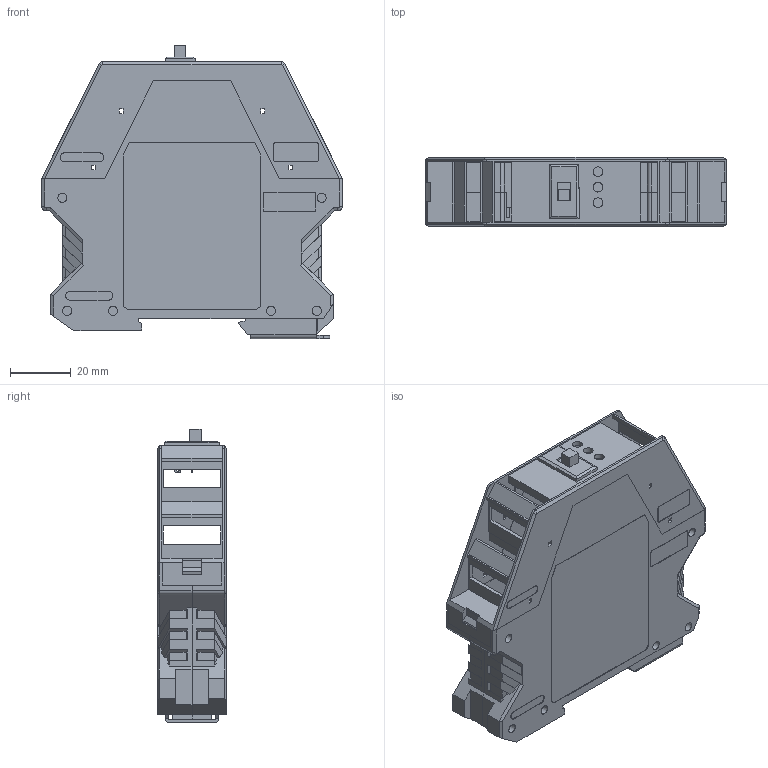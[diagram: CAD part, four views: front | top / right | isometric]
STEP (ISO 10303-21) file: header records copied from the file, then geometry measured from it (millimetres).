
FILE_DESCRIPTION(/* description */ (''),/* implementation_level */ '2;1');
FILE_NAME(/* name */ 'K:/07_EMS/2_ENT/1_aktuelle Projekte/Meister Automation/02_Entwicklung/01_Hardware/01_MCAD/FreeCAD Zeichnung/MultialertMini_3D_ohne_Platine.step',/* time_stamp */ '2022-09-14T07:27:13+02:00',/* author */ (''),/* organization */ (''),/* preprocessor_version */ 'ST-DEVELOPER v19',/* originating_system */ 'Autodesk Translation Framework v11.7.0.108',/* authorisation */ '');
FILE_SCHEMA (('AUTOMOTIVE_DESIGN { 1 0 10303 214 3 1 1 }'));
Length unit declared in the file: millimetre
Products named in the file (9): (Nicht gespeichert); MultialertMini_3D; Copy_of_G_107_SI_0005001; 2021_07_12__14-28-31-996; 2021_07_12__14-28-31-995; 2021_07_12__14-28-31-994; 2021_07_12__14-28-32-055; 2021_07_12__14-28-31-993; Pocket
Assembly tree (8 placements, depth 3):
  (Nicht gespeichert)
    MultialertMini_3D
      Copy_of_G_107_SI_0005001
      2021_07_12__14-28-31-996
      2021_07_12__14-28-31-995
      2021_07_12__14-28-31-994
      2021_07_12__14-28-32-055
      2021_07_12__14-28-31-993
      Pocket
Bounding box: 99 x 22.6 x 96.45 mm (x, y, z)
Volume: 39750.6 mm3; surface area: 51002.7 mm2
Topology: 11 solids, 11 shells, 1065 faces, 3012 edges, 1985 vertices
Faces by surface type: plane 938, cylinder 117, cone 8, sphere 2
Full cylindrical faces by diameter (mm): 2 x6, 2.54 x1, 3 x12, 3.175 x1, 3.2 x3
Entity records: 34720 total; most frequent: CARTESIAN_POINT 6075, ORIENTED_EDGE 6016, DIRECTION 5428, EDGE_CURVE 3008, LINE 2752, VECTOR 2752, VERTEX_POINT 1985, AXIS2_PLACEMENT_3D 1338
